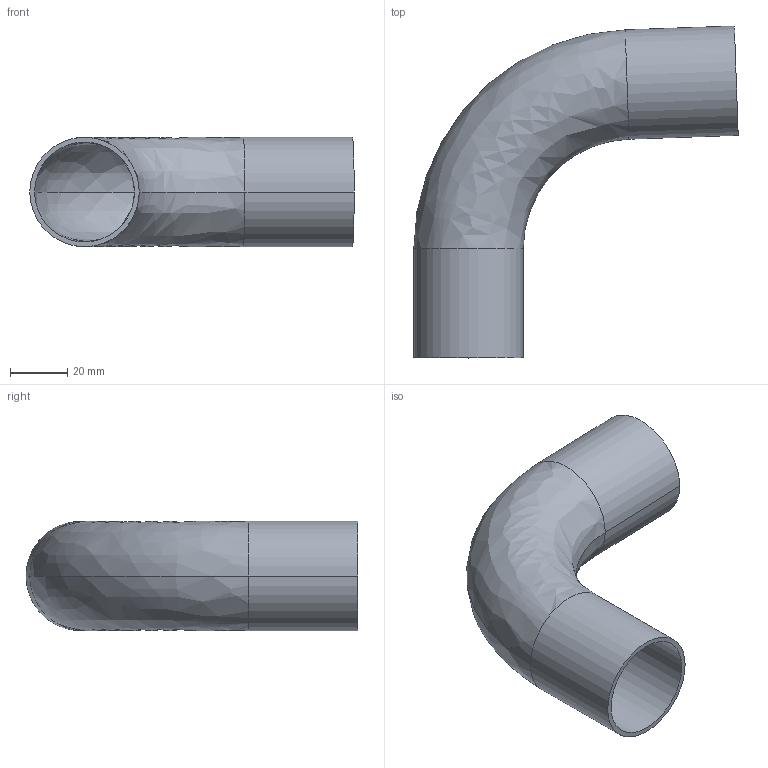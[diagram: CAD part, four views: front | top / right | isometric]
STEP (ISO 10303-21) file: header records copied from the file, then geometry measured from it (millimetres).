
FILE_DESCRIPTION (( 'STEP AP214' ), '1' );
FILE_NAME ('TE2S886L1.5-...STEP', '2016-05-22T08:40:57', ( 'eran' ), ( '' ), 'SwSTEP 2.0', 'SolidWorks 2016', '' );
FILE_SCHEMA (( 'AUTOMOTIVE_DESIGN' ));
Length unit declared in the file: millimetre
Products named in the file (1): TE2S886L1.5-..
Bounding box: 112.93 x 115.56 x 38.1 mm (x, y, z)
Volume: 30971.5 mm3; surface area: 37919.1 mm2
Topology: 1 solids, 1 shells, 14 faces, 28 edges, 16 vertices
Faces by surface type: cylinder 8, bspline 4, plane 2
Entity records: 450 total; most frequent: CARTESIAN_POINT 119, DIRECTION 70, ORIENTED_EDGE 56, AXIS2_PLACEMENT_3D 31, EDGE_CURVE 28, CIRCLE 20, VERTEX_POINT 16, EDGE_LOOP 16
